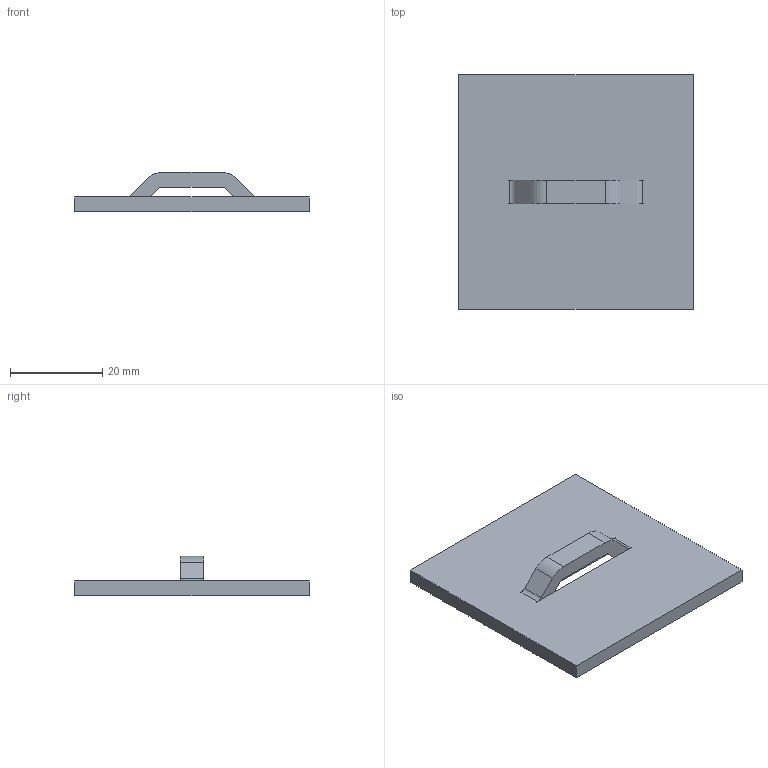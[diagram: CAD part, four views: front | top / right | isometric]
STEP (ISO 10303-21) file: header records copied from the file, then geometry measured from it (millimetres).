
FILE_DESCRIPTION((''),'1');
FILE_NAME('C:/Users/robertnolte/Desktop/WT#212-4906.stp','2012-03-28T21:12:11',(''),(''),'Spatial Interop R21 SP3','Kubotek KeyCreator 2011 V10.5.0 (24766)',' ');
FILE_SCHEMA(('CONFIG_CONTROL_DESIGN'));
Length unit declared in the file: inch
Products named in the file (1): 1
Bounding box: 50.8 x 50.8 x 8.51 mm (x, y, z)
Volume: 8251.3 mm3; surface area: 6237.5 mm2
Topology: 1 solids, 1 shells, 28 faces, 84 edges, 56 vertices
Faces by surface type: plane 20, cylinder 8
Entity records: 996 total; most frequent: CARTESIAN_POINT 169, ORIENTED_EDGE 168, DIRECTION 158, EDGE_CURVE 84, LINE 68, VECTOR 68, VERTEX_POINT 56, AXIS2_PLACEMENT_3D 45
